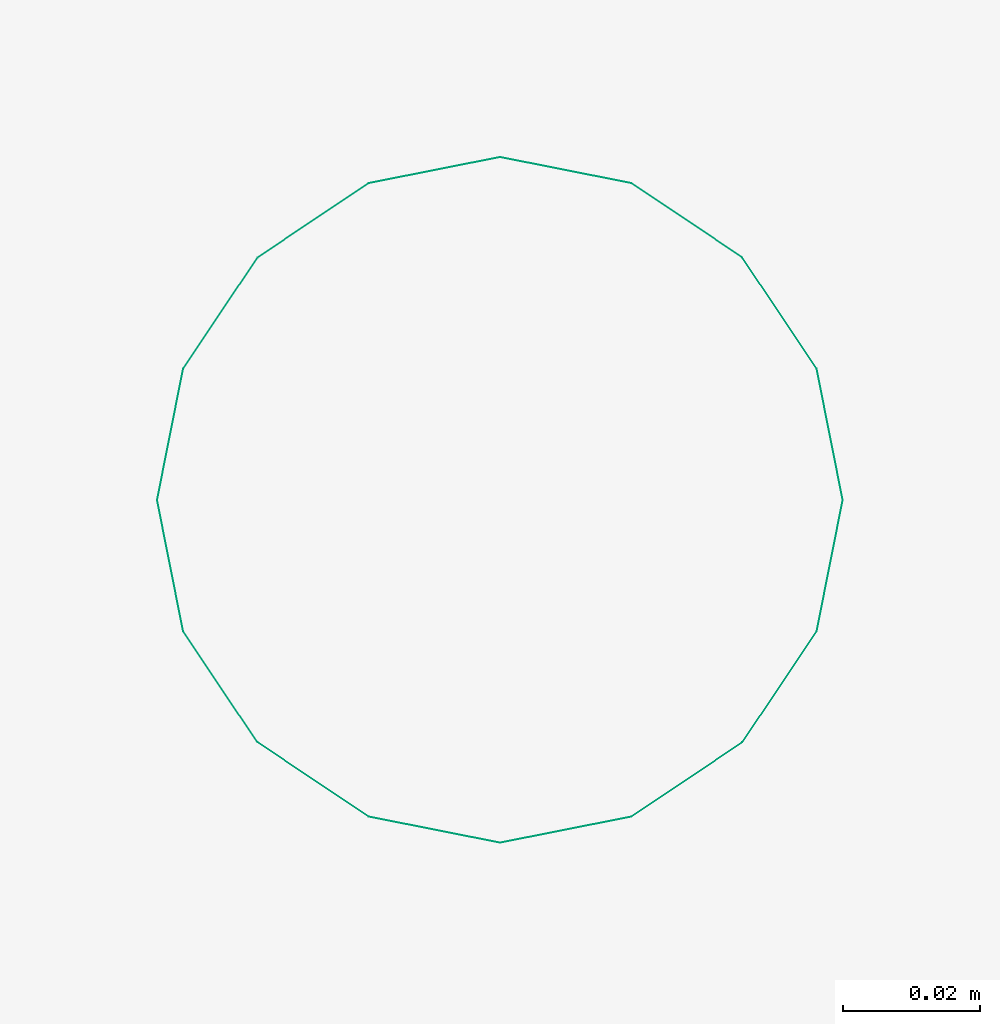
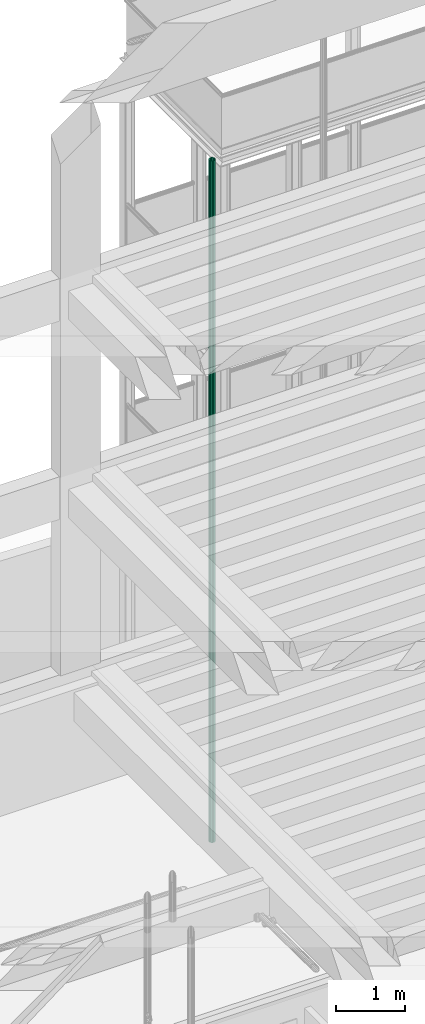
# One storey, part 66 of 106: 1 flow segment.
"""IFC2X3 building model written with IfcOpenShell, lengths in metres."""

from ifc_helpers import new_model, entity, si_unit, converted_unit, derived_unit, money_unit, direction, frame, origin_with_axes, place, context, subcontext, project, spatial, faceted_brep, material, type_object, element, save


model = new_model("IFC2X3")

# Units and contexts
model_context = context("Model", 3, precision=1e-05, world=origin_with_axes(), true_north=direction((0.0, 1.0)))
body_context = subcontext(model_context, "Body", "Model", "MODEL_VIEW", scale=1.0)
ifc_project = project(units=[si_unit("LENGTHUNIT", "METRE"), si_unit("AREAUNIT", "SQUARE_METRE"), si_unit("VOLUMEUNIT", "CUBIC_METRE"), si_unit("ABSORBEDDOSEUNIT", "GRAY"), si_unit("AMOUNTOFSUBSTANCEUNIT", "MOLE"), si_unit("DOSEEQUIVALENTUNIT", "SIEVERT"), si_unit("ELECTRICCAPACITANCEUNIT", "FARAD"), si_unit("ELECTRICCHARGEUNIT", "COULOMB"), si_unit("ELECTRICCONDUCTANCEUNIT", "SIEMENS"), si_unit("ELECTRICCURRENTUNIT", "AMPERE"), si_unit("ELECTRICRESISTANCEUNIT", "OHM"), si_unit("ELECTRICVOLTAGEUNIT", "VOLT"), si_unit("ENERGYUNIT", "JOULE"), si_unit("FORCEUNIT", "NEWTON"), si_unit("FREQUENCYUNIT", "HERTZ"), si_unit("ILLUMINANCEUNIT", "LUX"), si_unit("INDUCTANCEUNIT", "HENRY"), si_unit("LUMINOUSFLUXUNIT", "LUMEN"), si_unit("LUMINOUSINTENSITYUNIT", "CANDELA"), si_unit("MAGNETICFLUXDENSITYUNIT", "TESLA"), si_unit("MAGNETICFLUXUNIT", "WEBER"), si_unit("MASSUNIT", "GRAM"), converted_unit("PLANEANGLEUNIT", "degree", entity("IfcReal", 0.0174532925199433), si_unit("PLANEANGLEUNIT", "RADIAN"), dimensions=[0, 0, 0, 0, 0, 0, 0]), si_unit("POWERUNIT", "WATT"), si_unit("PRESSUREUNIT", "PASCAL"), si_unit("RADIOACTIVITYUNIT", "BECQUEREL"), si_unit("SOLIDANGLEUNIT", "STERADIAN"), si_unit("THERMODYNAMICTEMPERATUREUNIT", "KELVIN"), si_unit("TIMEUNIT", "SECOND"), derived_unit("ACCELERATIONUNIT", [(si_unit("LENGTHUNIT", "METRE"), 1), (si_unit("TIMEUNIT", "SECOND"), -2)]), derived_unit("ANGULARVELOCITYUNIT", [(converted_unit("PLANEANGLEUNIT", "degree", entity("IfcReal", 0.0174532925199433), si_unit("PLANEANGLEUNIT", "RADIAN"), dimensions=[0, 0, 0, 0, 0, 0, 0]), 1), (si_unit("TIMEUNIT", "SECOND"), -1)]), derived_unit("CURVATUREUNIT", [(converted_unit("PLANEANGLEUNIT", "degree", entity("IfcReal", 0.0174532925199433), si_unit("PLANEANGLEUNIT", "RADIAN"), dimensions=[0, 0, 0, 0, 0, 0, 0]), 1), (si_unit("LENGTHUNIT", "METRE"), -1)]), derived_unit("DYNAMICVISCOSITYUNIT", [(si_unit("PRESSUREUNIT", "PASCAL"), 1), (si_unit("TIMEUNIT", "SECOND"), 1)]), derived_unit("HEATFLUXDENSITYUNIT", [(si_unit("POWERUNIT", "WATT"), 1), (si_unit("LENGTHUNIT", "METRE"), -2)]), derived_unit("HEATINGVALUEUNIT", [(si_unit("ENERGYUNIT", "JOULE"), 1), (si_unit("MASSUNIT", "GRAM"), -1)]), derived_unit("INTEGERCOUNTRATEUNIT", [(si_unit("TIMEUNIT", "SECOND"), -1)]), derived_unit("IONCONCENTRATIONUNIT", [(si_unit("MASSUNIT", "GRAM"), 1), (si_unit("VOLUMEUNIT", "CUBIC_METRE"), -1)]), derived_unit("ISOTHERMALMOISTURECAPACITYUNIT", [(si_unit("VOLUMEUNIT", "CUBIC_METRE"), 1), (si_unit("MASSUNIT", "GRAM"), -1)]), derived_unit("KINEMATICVISCOSITYUNIT", [(si_unit("AREAUNIT", "SQUARE_METRE"), 1), (si_unit("TIMEUNIT", "SECOND"), -1)]), derived_unit("LINEARFORCEUNIT", [(si_unit("FORCEUNIT", "NEWTON"), 1), (si_unit("LENGTHUNIT", "METRE"), -1)]), derived_unit("LINEARMOMENTUNIT", [(si_unit("FORCEUNIT", "NEWTON"), 1), (si_unit("LENGTHUNIT", "METRE"), -1)]), derived_unit("LINEARSTIFFNESSUNIT", [(si_unit("FORCEUNIT", "NEWTON"), 1), (si_unit("LENGTHUNIT", "METRE"), -1)]), derived_unit("LINEARVELOCITYUNIT", [(si_unit("LENGTHUNIT", "METRE"), 1), (si_unit("TIMEUNIT", "SECOND"), -1)]), derived_unit("LUMINOUSINTENSITYDISTRIBUTIONUNIT", [(si_unit("LUMINOUSINTENSITYUNIT", "CANDELA"), 1), (si_unit("LUMINOUSFLUXUNIT", "LUMEN"), -1)]), derived_unit("MASSDENSITYUNIT", [(si_unit("MASSUNIT", "GRAM"), 1), (si_unit("VOLUMEUNIT", "CUBIC_METRE"), -1)]), derived_unit("MASSFLOWRATEUNIT", [(si_unit("MASSUNIT", "GRAM"), 1), (si_unit("TIMEUNIT", "SECOND"), -1)]), derived_unit("MASSPERLENGTHUNIT", [(si_unit("MASSUNIT", "GRAM"), 1), (si_unit("LENGTHUNIT", "METRE"), -1)]), derived_unit("MODULUSOFELASTICITYUNIT", [(si_unit("FORCEUNIT", "NEWTON"), 1), (si_unit("AREAUNIT", "SQUARE_METRE"), -1)]), derived_unit("MODULUSOFLINEARSUBGRADEREACTIONUNIT", [(si_unit("FORCEUNIT", "NEWTON"), 1), (si_unit("LENGTHUNIT", "METRE"), -2)]), derived_unit("MODULUSOFROTATIONALSUBGRADEREACTIONUNIT", [(si_unit("FORCEUNIT", "NEWTON"), 1), (si_unit("LENGTHUNIT", "METRE"), 1)]), derived_unit("MODULUSOFSUBGRADEREACTIONUNIT", [(si_unit("FORCEUNIT", "NEWTON"), 1), (si_unit("VOLUMEUNIT", "CUBIC_METRE"), -1)]), derived_unit("MOISTUREDIFFUSIVITYUNIT", [(si_unit("VOLUMEUNIT", "CUBIC_METRE"), 1), (si_unit("TIMEUNIT", "SECOND"), -1)]), derived_unit("MOLECULARWEIGHTUNIT", [(si_unit("MASSUNIT", "GRAM"), 1), (si_unit("AMOUNTOFSUBSTANCEUNIT", "MOLE"), -1)]), derived_unit("PLANARFORCEUNIT", [(si_unit("FORCEUNIT", "NEWTON"), 1), (si_unit("LENGTHUNIT", "METRE"), -2)]), derived_unit("ROTATIONALFREQUENCYUNIT", [(si_unit("TIMEUNIT", "SECOND"), -1)]), derived_unit("ROTATIONALMASSUNIT", [(si_unit("MASSUNIT", "GRAM"), 1), (si_unit("LENGTHUNIT", "METRE"), 2)]), derived_unit("ROTATIONALSTIFFNESSUNIT", [(si_unit("FORCEUNIT", "NEWTON"), 1), (si_unit("LENGTHUNIT", "METRE"), 1), (converted_unit("PLANEANGLEUNIT", "degree", entity("IfcReal", 0.0174532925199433), si_unit("PLANEANGLEUNIT", "RADIAN"), dimensions=[0, 0, 0, 0, 0, 0, 0]), -1)]), derived_unit("SECTIONAREAINTEGRALUNIT", [(si_unit("LENGTHUNIT", "METRE"), 5)]), derived_unit("SECTIONMODULUSUNIT", [(si_unit("LENGTHUNIT", "METRE"), 3)]), derived_unit("SHEARMODULUSUNIT", [(si_unit("FORCEUNIT", "NEWTON"), 1), (si_unit("AREAUNIT", "SQUARE_METRE"), -1)]), derived_unit("SOUNDPOWERUNIT", [(si_unit("ENERGYUNIT", "JOULE"), 1), (si_unit("TIMEUNIT", "SECOND"), -1)]), derived_unit("SPECIFICHEATCAPACITYUNIT", [(si_unit("FORCEUNIT", "NEWTON"), 1), (si_unit("MASSUNIT", "GRAM"), -1), (si_unit("THERMODYNAMICTEMPERATUREUNIT", "KELVIN"), -1)]), derived_unit("TEMPERATUREGRADIENTUNIT", [(si_unit("THERMODYNAMICTEMPERATUREUNIT", "KELVIN"), 1), (si_unit("LENGTHUNIT", "METRE"), -1)]), derived_unit("THERMALADMITTANCEUNIT", [(si_unit("POWERUNIT", "WATT"), 1), (si_unit("AREAUNIT", "SQUARE_METRE"), -1), (si_unit("THERMODYNAMICTEMPERATUREUNIT", "KELVIN"), -1)]), derived_unit("THERMALCONDUCTANCEUNIT", [(si_unit("POWERUNIT", "WATT"), 1), (si_unit("LENGTHUNIT", "METRE"), -1), (si_unit("THERMODYNAMICTEMPERATUREUNIT", "KELVIN"), -1)]), derived_unit("THERMALEXPANSIONCOEFFICIENTUNIT", [(si_unit("THERMODYNAMICTEMPERATUREUNIT", "KELVIN"), -1)]), derived_unit("THERMALRESISTANCEUNIT", [(si_unit("AREAUNIT", "SQUARE_METRE"), 1), (si_unit("POWERUNIT", "WATT"), -1)]), derived_unit("THERMALTRANSMITTANCEUNIT", [(si_unit("POWERUNIT", "WATT"), 1), (si_unit("AREAUNIT", "SQUARE_METRE"), -1), (si_unit("THERMODYNAMICTEMPERATUREUNIT", "KELVIN"), -1)]), derived_unit("TORQUEUNIT", [(si_unit("FORCEUNIT", "NEWTON"), 1), (si_unit("LENGTHUNIT", "METRE"), 1)]), derived_unit("VAPORPERMEABILITYUNIT", [(si_unit("MASSUNIT", "GRAM"), 1), (si_unit("TIMEUNIT", "SECOND"), -1)]), derived_unit("VOLUMETRICFLOWRATEUNIT", [(si_unit("VOLUMEUNIT", "CUBIC_METRE"), 1), (si_unit("TIMEUNIT", "SECOND"), -1)]), derived_unit("WARPINGCONSTANTUNIT", [(si_unit("LENGTHUNIT", "METRE"), 6)]), derived_unit("WARPINGMOMENTUNIT", [(si_unit("FORCEUNIT", "NEWTON"), 1), (si_unit("LENGTHUNIT", "METRE"), 2)]), money_unit("GBP")], contexts=[model_context])

# Site, building, storey, space
site_placement = place(None, origin_with_axes())
site = spatial("IfcSite", under=ifc_project, at=site_placement, Name="Site", CompositionType="ELEMENT")
building_placement = place(site_placement, origin_with_axes())
building = spatial("IfcBuilding", under=site, at=building_placement, Name="Building01", CompositionType="ELEMENT")
storey_placement = place(building_placement, origin_with_axes())
storey = spatial("IfcBuildingStorey", under=building, at=storey_placement, Name="GF", CompositionType="ELEMENT", Elevation=0.0)
space_placement = place(storey_placement, frame((21.91816, 14.897172, 0.0), z_axis=(0.0, 0.0, 1.0), x_axis=(1.0, 0.0, 0.0)))
space = spatial("IfcSpace", under=storey, at=space_placement, Name="0", CompositionType="ELEMENT", InteriorOrExteriorSpace="NOTDEFINED")

# Flow segment
ifc_material = material(Name="M_BSUK_ColdWater")
pipe_segment_type = type_object("IfcPipeSegmentType", Name="M-BmpStraightpipe-DefaultPipe", PredefinedType="RIGIDSEGMENT")
flow_segment_placement = place(storey_placement, frame((20.899604, 15.881611, 12.159736), z_axis=(0.0, -1.0, 0.0), x_axis=(0.0, 0.0, -1.0)))
element("IfcFlowSegment", 1, at=flow_segment_placement, inside=space, type_object=pipe_segment_type, material=ifc_material, Name="M-BmpStraightpipe-DefaultPipe", ObjectType="M-BmpStraightpipe-DefaultPipe", context=body_context, shape_type="Brep", body=[
    faceted_brep([(12.003035, 0.0, -0.05), (0.0, 0.0, -0.05), (0.0, 0.019134, -0.046194), (12.003035, 0.019134, -0.046194), (0.0, 0.035355, -0.035355), (12.003035, 0.035355, -0.035355), (0.0, 0.046194, -0.019134), (12.003035, 0.046194, -0.019134), (0.0, 0.05, 0.0), (12.003035, 0.05, 0.0), (0.0, 0.046194, 0.019134), (12.003035, 0.046194, 0.019134), (0.0, 0.035355, 0.035355), (12.003035, 0.035355, 0.035355), (0.0, 0.019134, 0.046194), (12.003035, 0.019134, 0.046194), (0.0, 0.0, 0.05), (12.003035, 0.0, 0.05), (0.0, -0.019134, 0.046194), (12.003035, -0.019134, 0.046194), (0.0, -0.035355, 0.035355), (12.003035, -0.035355, 0.035355), (0.0, -0.046194, 0.019134), (12.003035, -0.046194, 0.019134), (0.0, -0.05, 0.0), (12.003035, -0.05, 0.0), (0.0, -0.046194, -0.019134), (12.003035, -0.046194, -0.019134), (0.0, -0.035355, -0.035355), (12.003035, -0.035355, -0.035355), (0.0, -0.019134, -0.046194), (12.003035, -0.019134, -0.046194)], [[[0, 1, 2, 3]], [[3, 2, 4, 5]], [[5, 4, 6, 7]], [[7, 6, 8, 9]], [[9, 8, 10, 11]], [[11, 10, 12, 13]], [[13, 12, 14, 15]], [[15, 14, 16, 17]], [[17, 16, 18, 19]], [[19, 18, 20, 21]], [[21, 20, 22, 23]], [[23, 22, 24, 25]], [[25, 24, 26, 27]], [[27, 26, 28, 29]], [[29, 28, 30, 31]], [[31, 30, 1, 0]]]),
])

save(model, "model.ifc")
